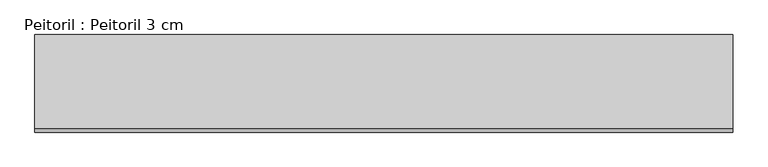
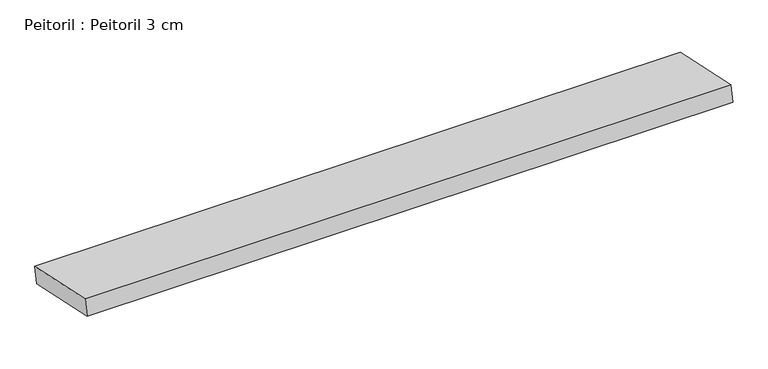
"""IFC4 building model written with IfcOpenShell, lengths in millimetres: proxy geometry, Peitoril : Peitoril 3 cm."""

from ifc_helpers import new_model, si_unit, frame, origin, place, context, project, spatial, polyline, outline, extrude, source, transform, mapped, element, save


def peitoril_peitoril_3_cm_319a31b0(model_context):
    return source(origin(), model_context, "Body", "SweptSolid", [
        extrude(outline(polyline([(0.0, -158.0245115), (0.0, 0.0), (1150.0, 0.0), (1150.0, -158.0245115), (0.0, -158.0245115)])), frame((736.81445, -32.3195188, 880.655572), z_axis=(0.0, 0.20791169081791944, 0.9781476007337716), x_axis=(-1.0, 0.0, 0.0)), (0.0, 0.0, 1.0), 30.0),
    ])


if __name__ == "__main__":
    model = new_model("IFC4")
    model_context = context("Model", 3, world=origin())
    ifc_project = project(units=[si_unit("LENGTHUNIT", "METRE", prefix="MILLI")], contexts=[model_context])
    site = spatial("IfcSite", under=ifc_project)
    building = spatial("IfcBuilding", under=site)
    placement = place(None, origin())
    peitoril_peitoril_3_cm_shape = peitoril_peitoril_3_cm_319a31b0(model_context)
    element("IfcBuildingElementProxy", 1, Name="Peitoril : Peitoril 3 cm", ObjectType="Peitoril : Peitoril 3 cm", at=placement, inside=building, context=model_context, shape_type="MappedRepresentation", body=[
        mapped(peitoril_peitoril_3_cm_shape, transform((0.0, 0.0, 0.0), x_axis=(1.0, 0.0, 0.0), y_axis=(0.0, 1.0, 0.0), z_axis=(0.0, 0.0, 1.0))),
    ])
    save(model, "model.ifc")
